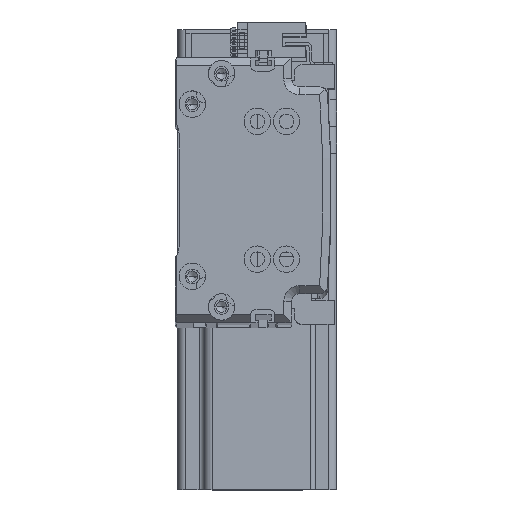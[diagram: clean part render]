
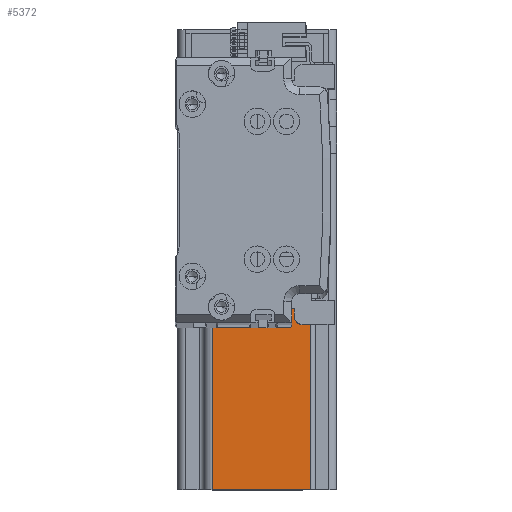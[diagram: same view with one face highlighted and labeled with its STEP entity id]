
A CAD part, top view. The second image highlights one B-rep face of the part: STEP entity #5372.
In plain terms, the highlighted planar face has unit normal (0, 0, 1) as drawn and (-1, 0, 0) by its records, which use the part's own axes.
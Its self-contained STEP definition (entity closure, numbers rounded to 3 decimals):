
#507 = CARTESIAN_POINT ( 'NONE',  ( -30., -30., 0. ) ) ;
#3171 = EDGE_CURVE ( 'NONE', #43361, #23012, #16931, .T. ) ;
#3480 = VERTEX_POINT ( 'NONE', #15704 ) ;
#4989 = EDGE_CURVE ( 'NONE', #22440, #22179, #22455, .T. ) ;
#5372 = ADVANCED_FACE ( 'NONE', ( #10162 ), #28340, .F. ) ;
#7123 = ORIENTED_EDGE ( 'NONE', *, *, #53258, .F. ) ;
#7966 = DIRECTION ( 'NONE',  ( 1., 0., 0. ) ) ;
#8255 = VECTOR ( 'NONE', #37606, 1000. ) ;
#8508 = ORIENTED_EDGE ( 'NONE', *, *, #33646, .T. ) ;
#9591 = CARTESIAN_POINT ( 'NONE',  ( -30., 27., 137. ) ) ;
#10162 = FACE_OUTER_BOUND ( 'NONE', #17754, .T. ) ;
#12896 = CARTESIAN_POINT ( 'NONE',  ( -30., -27., 137. ) ) ;
#14231 = VERTEX_POINT ( 'NONE', #41553 ) ;
#14575 = VECTOR ( 'NONE', #32020, 1000. ) ;
#15704 = CARTESIAN_POINT ( 'NONE',  ( -30., -17., 137. ) ) ;
#16439 = EDGE_CURVE ( 'NONE', #23012, #22440, #35052, .T. ) ;
#16463 = ORIENTED_EDGE ( 'NONE', *, *, #26490, .T. ) ;
#16931 = LINE ( 'NONE', #9591, #37556 ) ;
#17754 = EDGE_LOOP ( 'NONE', ( #40859, #8508, #36971, #7123, #16463, #43381, #37872, #21125 ) ) ;
#18161 = CARTESIAN_POINT ( 'NONE',  ( -30., -30., 10. ) ) ;
#19384 = VERTEX_POINT ( 'NONE', #41155 ) ;
#20332 = CARTESIAN_POINT ( 'NONE',  ( -30., -27., 0. ) ) ;
#21042 = VECTOR ( 'NONE', #33373, 1000. ) ;
#21125 = ORIENTED_EDGE ( 'NONE', *, *, #4989, .T. ) ;
#21299 = VECTOR ( 'NONE', #30065, 1000. ) ;
#22179 = VERTEX_POINT ( 'NONE', #47350 ) ;
#22440 = VERTEX_POINT ( 'NONE', #20332 ) ;
#22455 = LINE ( 'NONE', #12896, #8255 ) ;
#23012 = VERTEX_POINT ( 'NONE', #23764 ) ;
#23764 = CARTESIAN_POINT ( 'NONE',  ( -30., 27., 0. ) ) ;
#25174 = CARTESIAN_POINT ( 'NONE',  ( -30., -30., 137. ) ) ;
#25333 = DIRECTION ( 'NONE',  ( 0., -1., 0. ) ) ;
#25510 = LINE ( 'NONE', #27785, #14575 ) ;
#25864 = DIRECTION ( 'NONE',  ( 0., 0., 1. ) ) ;
#26490 = EDGE_CURVE ( 'NONE', #43217, #43361, #41931, .T. ) ;
#27785 = CARTESIAN_POINT ( 'NONE',  ( -30., 20., 10. ) ) ;
#28340 = PLANE ( 'NONE',  #49387 ) ;
#30065 = DIRECTION ( 'NONE',  ( 0., -1., 0. ) ) ;
#30740 = LINE ( 'NONE', #25174, #21042 ) ;
#32020 = DIRECTION ( 'NONE',  ( 0., 0., 1. ) ) ;
#32760 = CARTESIAN_POINT ( 'NONE',  ( -30., -30., 137. ) ) ;
#33373 = DIRECTION ( 'NONE',  ( 0., -1., 0. ) ) ;
#33646 = EDGE_CURVE ( 'NONE', #14231, #3480, #52268, .T. ) ;
#33891 = DIRECTION ( 'NONE',  ( 0., 1., 0. ) ) ;
#34345 = DIRECTION ( 'NONE',  ( 0., 0., -1. ) ) ;
#35052 = LINE ( 'NONE', #507, #44614 ) ;
#36672 = EDGE_CURVE ( 'NONE', #19384, #3480, #30740, .T. ) ;
#36868 = DIRECTION ( 'NONE',  ( 0., 0., -1. ) ) ;
#36971 = ORIENTED_EDGE ( 'NONE', *, *, #36672, .F. ) ;
#37556 = VECTOR ( 'NONE', #34345, 1000. ) ;
#37606 = DIRECTION ( 'NONE',  ( 0., 0., 1. ) ) ;
#37872 = ORIENTED_EDGE ( 'NONE', *, *, #16439, .T. ) ;
#40638 = VECTOR ( 'NONE', #33891, 1000. ) ;
#40859 = ORIENTED_EDGE ( 'NONE', *, *, #42810, .F. ) ;
#41155 = CARTESIAN_POINT ( 'NONE',  ( -30., 20., 137. ) ) ;
#41535 = CARTESIAN_POINT ( 'NONE',  ( -30., 20., 10. ) ) ;
#41553 = CARTESIAN_POINT ( 'NONE',  ( -30., -17., 10. ) ) ;
#41931 = LINE ( 'NONE', #46037, #40638 ) ;
#42117 = CARTESIAN_POINT ( 'NONE',  ( -30., -17., 137. ) ) ;
#42810 = EDGE_CURVE ( 'NONE', #14231, #22179, #52784, .T. ) ;
#43217 = VERTEX_POINT ( 'NONE', #41535 ) ;
#43361 = VERTEX_POINT ( 'NONE', #50956 ) ;
#43381 = ORIENTED_EDGE ( 'NONE', *, *, #3171, .T. ) ;
#44614 = VECTOR ( 'NONE', #25333, 1000. ) ;
#46037 = CARTESIAN_POINT ( 'NONE',  ( -30., 30., 10. ) ) ;
#47350 = CARTESIAN_POINT ( 'NONE',  ( -30., -27., 10. ) ) ;
#49387 = AXIS2_PLACEMENT_3D ( 'NONE', #32760, #7966, #36868 ) ;
#49682 = VECTOR ( 'NONE', #25864, 1000. ) ;
#50956 = CARTESIAN_POINT ( 'NONE',  ( -30., 27., 10. ) ) ;
#52268 = LINE ( 'NONE', #42117, #49682 ) ;
#52784 = LINE ( 'NONE', #18161, #21299 ) ;
#53258 = EDGE_CURVE ( 'NONE', #43217, #19384, #25510, .T. ) ;
